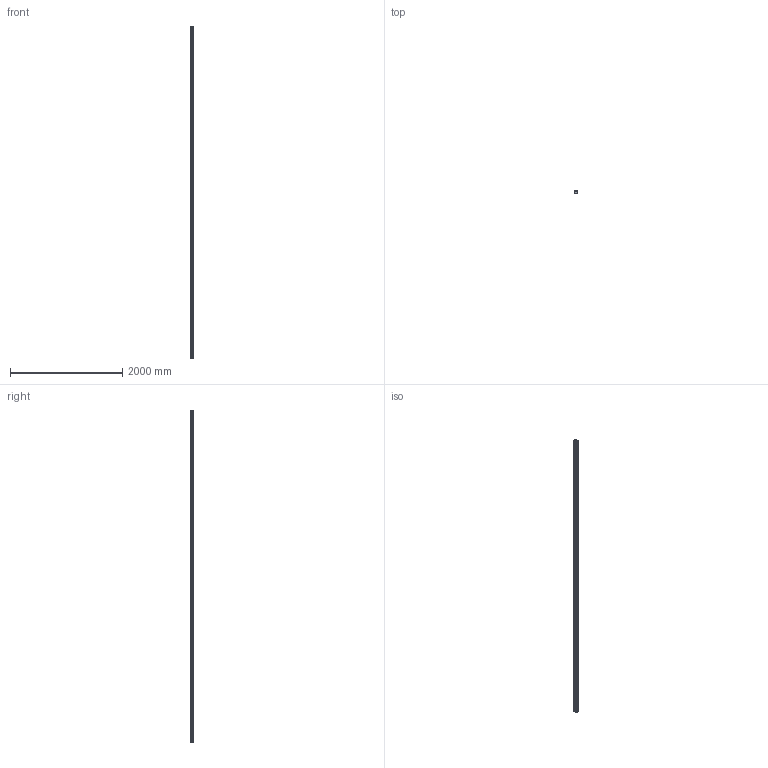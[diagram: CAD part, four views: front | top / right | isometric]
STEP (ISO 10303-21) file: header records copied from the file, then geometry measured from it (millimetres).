
FILE_DESCRIPTION((''),'2;1');
FILE_NAME('ROLLENSCHIENE_C','2021-12-23T05:43:27',('ac91sw'),(''),'CREO PARAMETRIC BY PTC INC, 2020044','CREO PARAMETRIC BY PTC INC, 2020044','');
FILE_SCHEMA(('AUTOMOTIVE_DESIGN { 1 0 10303 214 1 1 1 1 }'));
Length unit declared in the file: millimetre
Products named in the file (3): ROLLENSCHIENE_C_SKEL; ROLLENSCHIENE_C_RAIL1; ROLLENSCHIENE_C
Assembly tree (2 placements, depth 2):
  ROLLENSCHIENE_C
    ROLLENSCHIENE_C_SKEL
    ROLLENSCHIENE_C_RAIL1
Bounding box: 63 x 57.85 x 5921 mm (x, y, z)
Volume: 14968493.2 mm3; surface area: 1858770.6 mm2
Topology: 1 solids, 1 shells, 1245 faces, 2681 edges, 2083 vertices
Faces by surface type: cylinder 790, plane 455
Entity records: 35713 total; most frequent: DIRECTION 6809, CARTESIAN_POINT 5696, ORIENTED_EDGE 5016, AXIS2_PLACEMENT_3D 2854, EDGE_CURVE 2508, VERTEX_POINT 1660, EDGE_LOOP 1640, CIRCLE 1580
